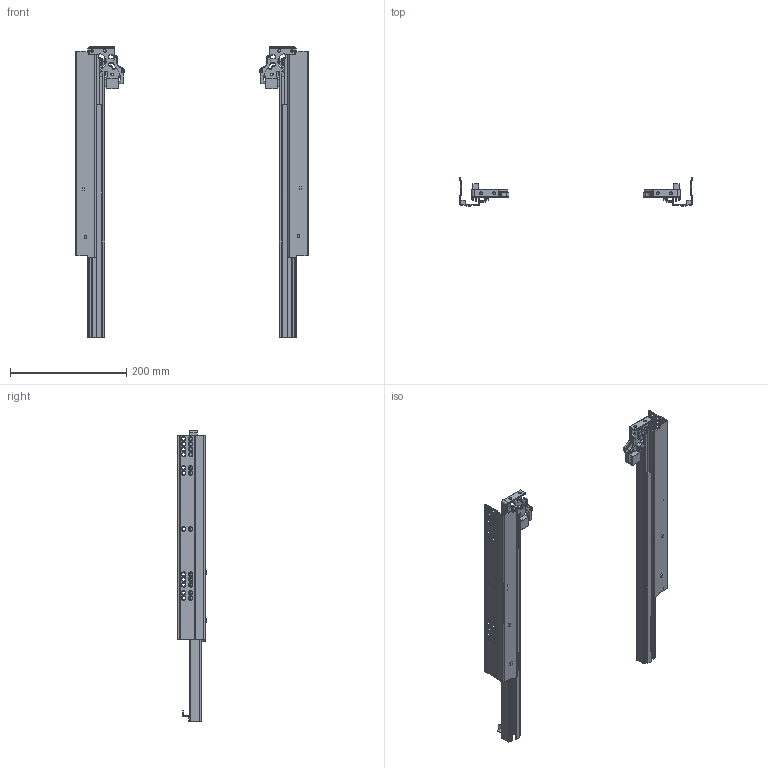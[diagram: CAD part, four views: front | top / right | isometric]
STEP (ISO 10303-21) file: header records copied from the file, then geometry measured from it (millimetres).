
FILE_DESCRIPTION(/* description */ (''),/* implementation_level */ '2;1');
FILE_NAME(/* name */ 'D:\$Workingspace\Designs\Katalog\Cadsoft\GTV Prowadnice\Prowadnice GTV_bryły 3D\PB-0FPO-500.stp',/* time_stamp */ '2016-11-21T11:59:36+01:00',/* author */ ('tomaszw'),/* organization */ (''),/* preprocessor_version */ 'ST-DEVELOPER v16.1',/* originating_system */ 'Autodesk Inventor 2016',/* authorisation */ '');
FILE_SCHEMA (('AUTOMOTIVE_DESIGN { 1 0 10303 214 3 1 1 }'));
Length unit declared in the file: millimetre
Products named in the file (9): PB-0FPO-CL-500; PB-0FPO-CR-500; PB-0FPO-DL-500; PB-0FPO-DR-500; PB-0FPO-DWL-500; PB-0FPO-DWR-500; PB-0FPO-SL; PB-0FPO-SR; PB-0FPO
Assembly tree (8 placements, depth 2):
  PB-0FPO
    PB-0FPO-CL-500
    PB-0FPO-CR-500
    PB-0FPO-DL-500
    PB-0FPO-DR-500
    PB-0FPO-DWL-500
    PB-0FPO-DWR-500
    PB-0FPO-SL
    PB-0FPO-SR
Bounding box: 400 x 48.8 x 500 mm (x, y, z)
Volume: 313111.3 mm3; surface area: 386761.7 mm2
Topology: 16 solids, 16 shells, 1884 faces, 4356 edges, 2510 vertices
Faces by surface type: cylinder 792, plane 444, torus 366, sphere 198, cone 48, bspline 36
Full cylindrical faces by diameter (mm): 3 x2, 4 x6, 4.5 x6, 5 x2, 6 x48, 7.889 x2
Entity records: 56377 total; most frequent: CARTESIAN_POINT 11155, DIRECTION 9982, ORIENTED_EDGE 8308, EDGE_CURVE 4154, AXIS2_PLACEMENT_3D 4031, VERTEX_POINT 2456, EDGE_LOOP 2182, CIRCLE 2154
